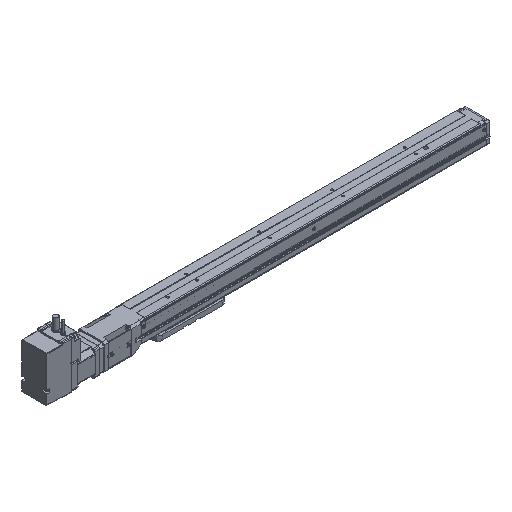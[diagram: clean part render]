
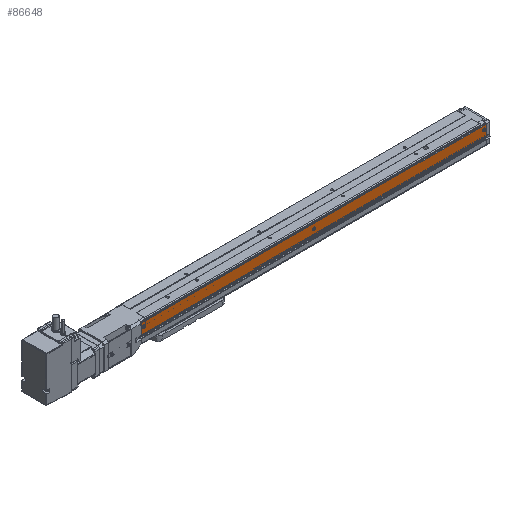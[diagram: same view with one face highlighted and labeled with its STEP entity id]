
A CAD part, isometric view. The second image highlights one B-rep face of the part: STEP entity #86648.
In plain terms, the highlighted planar face has unit normal (0, -1, 0) as drawn and (0, 0, -1) by its records, which use the part's own axes.
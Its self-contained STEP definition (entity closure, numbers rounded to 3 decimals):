
#68400 = PLANE('',#68401);
#68401 = AXIS2_PLACEMENT_3D('',#68402,#68403,#68404);
#68402 = CARTESIAN_POINT('',(-576.5,1.25,21.3));
#68403 = DIRECTION('',(1.,0.,0.));
#68404 = DIRECTION('',(0.,0.,-1.));
#68828 = PLANE('',#68829);
#68829 = AXIS2_PLACEMENT_3D('',#68830,#68831,#68832);
#68830 = CARTESIAN_POINT('',(-9.5,1.25,21.3));
#68831 = DIRECTION('',(1.,0.,0.));
#68832 = DIRECTION('',(0.,0.,-1.));
#85841 = VERTEX_POINT('',#85842);
#85842 = CARTESIAN_POINT('',(-576.5,-2.65,-21.5));
#85859 = CYLINDRICAL_SURFACE('',#85860,0.2);
#85860 = AXIS2_PLACEMENT_3D('',#85861,#85862,#85863);
#85861 = CARTESIAN_POINT('',(-576.5,-2.65,-21.3));
#85862 = DIRECTION('',(1.,0.,0.));
#85863 = DIRECTION('',(0.,0.,-1.));
#85871 = EDGE_CURVE('',#85872,#85841,#85874,.T.);
#85872 = VERTEX_POINT('',#85873);
#85873 = CARTESIAN_POINT('',(-576.5,-20.734,-21.5));
#85874 = SURFACE_CURVE('',#85875,(#85879,#85886),.PCURVE_S1.);
#85875 = LINE('',#85876,#85877);
#85876 = CARTESIAN_POINT('',(-576.5,-20.734,-21.5));
#85877 = VECTOR('',#85878,1.);
#85878 = DIRECTION('',(0.,1.,0.));
#85879 = PCURVE('',#68400,#85880);
#85880 = DEFINITIONAL_REPRESENTATION('',(#85881),#85885);
#85881 = LINE('',#85882,#85883);
#85882 = CARTESIAN_POINT('',(42.8,-21.984));
#85883 = VECTOR('',#85884,1.);
#85884 = DIRECTION('',(0.,1.));
#85885 = ( GEOMETRIC_REPRESENTATION_CONTEXT(2) 
PARAMETRIC_REPRESENTATION_CONTEXT() REPRESENTATION_CONTEXT('2D SPACE',''
  ) );
#85886 = PCURVE('',#85887,#85892);
#85887 = PLANE('',#85888);
#85888 = AXIS2_PLACEMENT_3D('',#85889,#85890,#85891);
#85889 = CARTESIAN_POINT('',(-576.5,-20.734,-21.5));
#85890 = DIRECTION('',(0.,0.,-1.));
#85891 = DIRECTION('',(-1.,0.,0.));
#85892 = DEFINITIONAL_REPRESENTATION('',(#85893),#85897);
#85893 = LINE('',#85894,#85895);
#85894 = CARTESIAN_POINT('',(0.,0.));
#85895 = VECTOR('',#85896,1.);
#85896 = DIRECTION('',(0.,1.));
#85897 = ( GEOMETRIC_REPRESENTATION_CONTEXT(2) 
PARAMETRIC_REPRESENTATION_CONTEXT() REPRESENTATION_CONTEXT('2D SPACE',''
  ) );
#85916 = CYLINDRICAL_SURFACE('',#85917,1.);
#85917 = AXIS2_PLACEMENT_3D('',#85918,#85919,#85920);
#85918 = CARTESIAN_POINT('',(-576.5,-20.734,-20.5));
#85919 = DIRECTION('',(1.,0.,0.));
#85920 = DIRECTION('',(0.,0.,-1.));
#86329 = VERTEX_POINT('',#86330);
#86330 = CARTESIAN_POINT('',(-9.5,-20.734,-21.5));
#86352 = EDGE_CURVE('',#86329,#86353,#86355,.T.);
#86353 = VERTEX_POINT('',#86354);
#86354 = CARTESIAN_POINT('',(-9.5,-2.65,-21.5));
#86355 = SURFACE_CURVE('',#86356,(#86360,#86367),.PCURVE_S1.);
#86356 = LINE('',#86357,#86358);
#86357 = CARTESIAN_POINT('',(-9.5,-20.734,-21.5));
#86358 = VECTOR('',#86359,1.);
#86359 = DIRECTION('',(0.,1.,0.));
#86360 = PCURVE('',#68828,#86361);
#86361 = DEFINITIONAL_REPRESENTATION('',(#86362),#86366);
#86362 = LINE('',#86363,#86364);
#86363 = CARTESIAN_POINT('',(42.8,-21.984));
#86364 = VECTOR('',#86365,1.);
#86365 = DIRECTION('',(0.,1.));
#86366 = ( GEOMETRIC_REPRESENTATION_CONTEXT(2) 
PARAMETRIC_REPRESENTATION_CONTEXT() REPRESENTATION_CONTEXT('2D SPACE',''
  ) );
#86367 = PCURVE('',#85887,#86368);
#86368 = DEFINITIONAL_REPRESENTATION('',(#86369),#86373);
#86369 = LINE('',#86370,#86371);
#86370 = CARTESIAN_POINT('',(-567.,0.));
#86371 = VECTOR('',#86372,1.);
#86372 = DIRECTION('',(0.,1.));
#86373 = ( GEOMETRIC_REPRESENTATION_CONTEXT(2) 
PARAMETRIC_REPRESENTATION_CONTEXT() REPRESENTATION_CONTEXT('2D SPACE',''
  ) );
#86628 = EDGE_CURVE('',#85872,#86329,#86629,.T.);
#86629 = SURFACE_CURVE('',#86630,(#86634,#86641),.PCURVE_S1.);
#86630 = LINE('',#86631,#86632);
#86631 = CARTESIAN_POINT('',(-576.5,-20.734,-21.5));
#86632 = VECTOR('',#86633,1.);
#86633 = DIRECTION('',(1.,0.,0.));
#86634 = PCURVE('',#85916,#86635);
#86635 = DEFINITIONAL_REPRESENTATION('',(#86636),#86640);
#86636 = LINE('',#86637,#86638);
#86637 = CARTESIAN_POINT('',(6.283,0.));
#86638 = VECTOR('',#86639,1.);
#86639 = DIRECTION('',(0.,1.));
#86640 = ( GEOMETRIC_REPRESENTATION_CONTEXT(2) 
PARAMETRIC_REPRESENTATION_CONTEXT() REPRESENTATION_CONTEXT('2D SPACE',''
  ) );
#86641 = PCURVE('',#85887,#86642);
#86642 = DEFINITIONAL_REPRESENTATION('',(#86643),#86647);
#86643 = LINE('',#86644,#86645);
#86644 = CARTESIAN_POINT('',(0.,0.));
#86645 = VECTOR('',#86646,1.);
#86646 = DIRECTION('',(-1.,0.));
#86647 = ( GEOMETRIC_REPRESENTATION_CONTEXT(2) 
PARAMETRIC_REPRESENTATION_CONTEXT() REPRESENTATION_CONTEXT('2D SPACE',''
  ) );
#86648 = ADVANCED_FACE('',(#86649,#86680,#86715,#86750),#85887,.T.);
#86649 = FACE_BOUND('',#86650,.T.);
#86650 = EDGE_LOOP('',(#86651));
#86651 = ORIENTED_EDGE('',*,*,#86652,.F.);
#86652 = EDGE_CURVE('',#86653,#86653,#86655,.T.);
#86653 = VERTEX_POINT('',#86654);
#86654 = CARTESIAN_POINT('',(-295.25,-13.5,-21.5));
#86655 = SURFACE_CURVE('',#86656,(#86661,#86668),.PCURVE_S1.);
#86656 = CIRCLE('',#86657,2.25);
#86657 = AXIS2_PLACEMENT_3D('',#86658,#86659,#86660);
#86658 = CARTESIAN_POINT('',(-293.,-13.5,-21.5));
#86659 = DIRECTION('',(0.,0.,-1.));
#86660 = DIRECTION('',(-1.,0.,0.));
#86661 = PCURVE('',#85887,#86662);
#86662 = DEFINITIONAL_REPRESENTATION('',(#86663),#86667);
#86663 = CIRCLE('',#86664,2.25);
#86664 = AXIS2_PLACEMENT_2D('',#86665,#86666);
#86665 = CARTESIAN_POINT('',(-283.5,7.234));
#86666 = DIRECTION('',(1.,0.));
#86667 = ( GEOMETRIC_REPRESENTATION_CONTEXT(2) 
PARAMETRIC_REPRESENTATION_CONTEXT() REPRESENTATION_CONTEXT('2D SPACE',''
  ) );
#86668 = PCURVE('',#86669,#86674);
#86669 = CONICAL_SURFACE('',#86670,2.25,0.087);
#86670 = AXIS2_PLACEMENT_3D('',#86671,#86672,#86673);
#86671 = CARTESIAN_POINT('',(-293.,-13.5,-21.5));
#86672 = DIRECTION('',(0.,0.,1.));
#86673 = DIRECTION('',(1.,0.,-0.));
#86674 = DEFINITIONAL_REPRESENTATION('',(#86675),#86679);
#86675 = LINE('',#86676,#86677);
#86676 = CARTESIAN_POINT('',(9.425,0.));
#86677 = VECTOR('',#86678,1.);
#86678 = DIRECTION('',(-1.,0.));
#86679 = ( GEOMETRIC_REPRESENTATION_CONTEXT(2) 
PARAMETRIC_REPRESENTATION_CONTEXT() REPRESENTATION_CONTEXT('2D SPACE',''
  ) );
#86680 = FACE_BOUND('',#86681,.T.);
#86681 = EDGE_LOOP('',(#86682));
#86682 = ORIENTED_EDGE('',*,*,#86683,.T.);
#86683 = EDGE_CURVE('',#86684,#86684,#86686,.T.);
#86684 = VERTEX_POINT('',#86685);
#86685 = CARTESIAN_POINT('',(-570.71,-14.5,-21.5));
#86686 = SURFACE_CURVE('',#86687,(#86692,#86703),.PCURVE_S1.);
#86687 = CIRCLE('',#86688,2.29);
#86688 = AXIS2_PLACEMENT_3D('',#86689,#86690,#86691);
#86689 = CARTESIAN_POINT('',(-573.,-14.5,-21.5));
#86690 = DIRECTION('',(0.,0.,1.));
#86691 = DIRECTION('',(1.,0.,-0.));
#86692 = PCURVE('',#85887,#86693);
#86693 = DEFINITIONAL_REPRESENTATION('',(#86694),#86702);
#86694 = ( BOUNDED_CURVE() B_SPLINE_CURVE(2,(#86695,#86696,#86697,#86698
    ,#86699,#86700,#86701),.UNSPECIFIED.,.T.,.F.) 
B_SPLINE_CURVE_WITH_KNOTS((1,2,2,2,2,1),(-2.094,0.,
    2.094,4.189,6.283,8.378),
.UNSPECIFIED.) CURVE() GEOMETRIC_REPRESENTATION_ITEM() 
RATIONAL_B_SPLINE_CURVE((1.,0.5,1.,0.5,1.,0.5,1.)) REPRESENTATION_ITEM(
  '') );
#86695 = CARTESIAN_POINT('',(-5.79,6.234));
#86696 = CARTESIAN_POINT('',(-5.79,10.201));
#86697 = CARTESIAN_POINT('',(-2.355,8.218));
#86698 = CARTESIAN_POINT('',(1.08,6.234));
#86699 = CARTESIAN_POINT('',(-2.355,4.251));
#86700 = CARTESIAN_POINT('',(-5.79,2.268));
#86701 = CARTESIAN_POINT('',(-5.79,6.234));
#86702 = ( GEOMETRIC_REPRESENTATION_CONTEXT(2) 
PARAMETRIC_REPRESENTATION_CONTEXT() REPRESENTATION_CONTEXT('2D SPACE',''
  ) );
#86703 = PCURVE('',#86704,#86709);
#86704 = CONICAL_SURFACE('',#86705,2.221,0.087);
#86705 = AXIS2_PLACEMENT_3D('',#86706,#86707,#86708);
#86706 = CARTESIAN_POINT('',(-573.,-14.5,-22.289));
#86707 = DIRECTION('',(0.,0.,1.));
#86708 = DIRECTION('',(1.,0.,-0.));
#86709 = DEFINITIONAL_REPRESENTATION('',(#86710),#86714);
#86710 = LINE('',#86711,#86712);
#86711 = CARTESIAN_POINT('',(0.,0.789));
#86712 = VECTOR('',#86713,1.);
#86713 = DIRECTION('',(1.,0.));
#86714 = ( GEOMETRIC_REPRESENTATION_CONTEXT(2) 
PARAMETRIC_REPRESENTATION_CONTEXT() REPRESENTATION_CONTEXT('2D SPACE',''
  ) );
#86715 = FACE_BOUND('',#86716,.T.);
#86716 = EDGE_LOOP('',(#86717));
#86717 = ORIENTED_EDGE('',*,*,#86718,.T.);
#86718 = EDGE_CURVE('',#86719,#86719,#86721,.T.);
#86719 = VERTEX_POINT('',#86720);
#86720 = CARTESIAN_POINT('',(-10.71,-14.5,-21.5));
#86721 = SURFACE_CURVE('',#86722,(#86727,#86738),.PCURVE_S1.);
#86722 = CIRCLE('',#86723,2.29);
#86723 = AXIS2_PLACEMENT_3D('',#86724,#86725,#86726);
#86724 = CARTESIAN_POINT('',(-13.,-14.5,-21.5));
#86725 = DIRECTION('',(0.,0.,1.));
#86726 = DIRECTION('',(1.,0.,-0.));
#86727 = PCURVE('',#85887,#86728);
#86728 = DEFINITIONAL_REPRESENTATION('',(#86729),#86737);
#86729 = ( BOUNDED_CURVE() B_SPLINE_CURVE(2,(#86730,#86731,#86732,#86733
    ,#86734,#86735,#86736),.UNSPECIFIED.,.T.,.F.) 
B_SPLINE_CURVE_WITH_KNOTS((1,2,2,2,2,1),(-2.094,0.,
    2.094,4.189,6.283,8.378),
.UNSPECIFIED.) CURVE() GEOMETRIC_REPRESENTATION_ITEM() 
RATIONAL_B_SPLINE_CURVE((1.,0.5,1.,0.5,1.,0.5,1.)) REPRESENTATION_ITEM(
  '') );
#86730 = CARTESIAN_POINT('',(-565.79,6.234));
#86731 = CARTESIAN_POINT('',(-565.79,10.201));
#86732 = CARTESIAN_POINT('',(-562.355,8.218));
#86733 = CARTESIAN_POINT('',(-558.92,6.234));
#86734 = CARTESIAN_POINT('',(-562.355,4.251));
#86735 = CARTESIAN_POINT('',(-565.79,2.268));
#86736 = CARTESIAN_POINT('',(-565.79,6.234));
#86737 = ( GEOMETRIC_REPRESENTATION_CONTEXT(2) 
PARAMETRIC_REPRESENTATION_CONTEXT() REPRESENTATION_CONTEXT('2D SPACE',''
  ) );
#86738 = PCURVE('',#86739,#86744);
#86739 = CONICAL_SURFACE('',#86740,2.221,0.087);
#86740 = AXIS2_PLACEMENT_3D('',#86741,#86742,#86743);
#86741 = CARTESIAN_POINT('',(-13.,-14.5,-22.289));
#86742 = DIRECTION('',(0.,0.,1.));
#86743 = DIRECTION('',(1.,0.,-0.));
#86744 = DEFINITIONAL_REPRESENTATION('',(#86745),#86749);
#86745 = LINE('',#86746,#86747);
#86746 = CARTESIAN_POINT('',(0.,0.789));
#86747 = VECTOR('',#86748,1.);
#86748 = DIRECTION('',(1.,0.));
#86749 = ( GEOMETRIC_REPRESENTATION_CONTEXT(2) 
PARAMETRIC_REPRESENTATION_CONTEXT() REPRESENTATION_CONTEXT('2D SPACE',''
  ) );
#86750 = FACE_BOUND('',#86751,.T.);
#86751 = EDGE_LOOP('',(#86752,#86753,#86754,#86755));
#86752 = ORIENTED_EDGE('',*,*,#86352,.F.);
#86753 = ORIENTED_EDGE('',*,*,#86628,.F.);
#86754 = ORIENTED_EDGE('',*,*,#85871,.T.);
#86755 = ORIENTED_EDGE('',*,*,#86756,.T.);
#86756 = EDGE_CURVE('',#85841,#86353,#86757,.T.);
#86757 = SURFACE_CURVE('',#86758,(#86762,#86769),.PCURVE_S1.);
#86758 = LINE('',#86759,#86760);
#86759 = CARTESIAN_POINT('',(-576.5,-2.65,-21.5));
#86760 = VECTOR('',#86761,1.);
#86761 = DIRECTION('',(1.,0.,0.));
#86762 = PCURVE('',#85887,#86763);
#86763 = DEFINITIONAL_REPRESENTATION('',(#86764),#86768);
#86764 = LINE('',#86765,#86766);
#86765 = CARTESIAN_POINT('',(0.,18.084));
#86766 = VECTOR('',#86767,1.);
#86767 = DIRECTION('',(-1.,0.));
#86768 = ( GEOMETRIC_REPRESENTATION_CONTEXT(2) 
PARAMETRIC_REPRESENTATION_CONTEXT() REPRESENTATION_CONTEXT('2D SPACE',''
  ) );
#86769 = PCURVE('',#85859,#86770);
#86770 = DEFINITIONAL_REPRESENTATION('',(#86771),#86775);
#86771 = LINE('',#86772,#86773);
#86772 = CARTESIAN_POINT('',(0.,0.));
#86773 = VECTOR('',#86774,1.);
#86774 = DIRECTION('',(0.,1.));
#86775 = ( GEOMETRIC_REPRESENTATION_CONTEXT(2) 
PARAMETRIC_REPRESENTATION_CONTEXT() REPRESENTATION_CONTEXT('2D SPACE',''
  ) );
